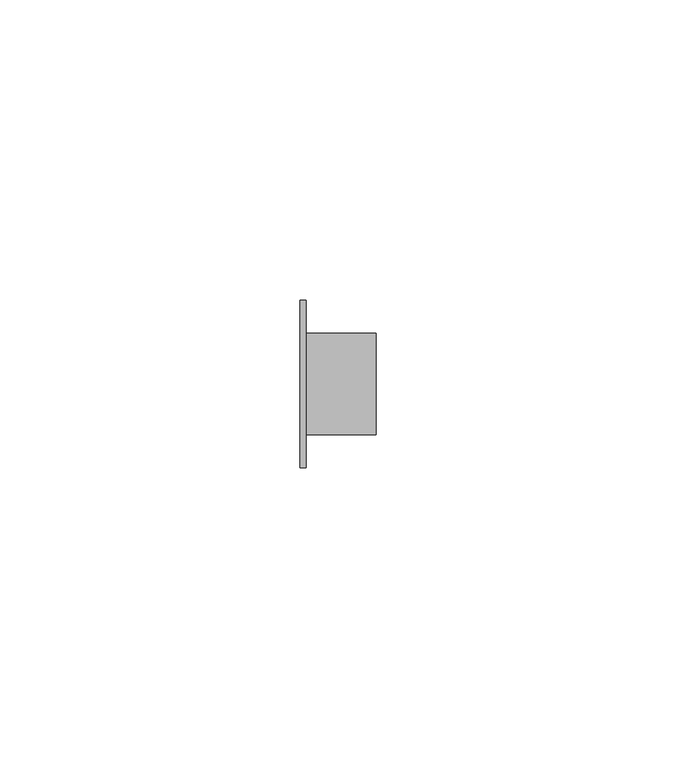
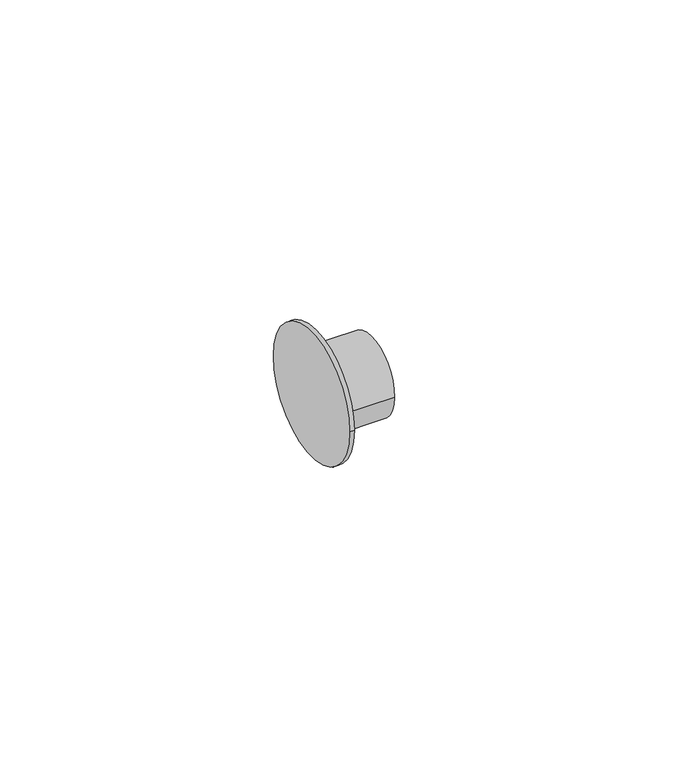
"""IFC4 building model written with IfcOpenShell, lengths in millimetres: pipe fitting geometry, Bucha de redução reta - Soldada - CU : Padrão."""

from ifc_helpers import new_model, si_unit, frame, origin, place, context, project, spatial, circle_curve, source, transform, mapped, element, save
from ifc_brep_helpers import plane_surface, cylinder_surface, advanced_brep


def pipe_fitting_182e23ec(model_context):
    return source(origin(), model_context, "Body", "AdvancedBrep", [
        advanced_brep(
        [(0.0, -13.97, 0.0), (0.0, 13.97, 0.0), (1.0, -13.97, 0.0), (1.0, 13.97, 0.0), (1.0, -8.4937, 0.0), (1.0, 8.4937, 0.0), (12.6589, -8.4937, 0.0), (12.6589, 8.4937, 0.0)],
        [
            (0, 1, circle_curve(frame((0.0, 0.0, 0.0), z_axis=(-1.0, 0.0, 0.0), x_axis=(0.0, 1.0, 0.0)), 13.97)),
            (1, 0, circle_curve(frame((0.0, 0.0, 0.0), z_axis=(-1.0, 0.0, 0.0), x_axis=(0.0, 1.0, 0.0)), 13.97)),
            (2, 3, circle_curve(frame((1.0, 0.0, 0.0), z_axis=(1.0, 0.0, 0.0), x_axis=(0.0, 1.0, 0.0)), 13.97)),
            (3, 2, circle_curve(frame((1.0, 0.0, 0.0), z_axis=(1.0, 0.0, 0.0), x_axis=(0.0, 1.0, 0.0)), 13.97)),
            (4, 5, circle_curve(frame((1.0, 0.0, 0.0), z_axis=(-1.0, 0.0, 0.0), x_axis=(0.0, 1.0, 0.0)), 8.4937)),
            (5, 4, circle_curve(frame((1.0, 0.0, 0.0), z_axis=(-1.0, 0.0, 0.0), x_axis=(0.0, 1.0, 0.0)), 8.4937)),
            (0, 2),
            (3, 1),
            (6, 7, circle_curve(frame((12.6589, 0.0, 0.0), z_axis=(1.0, 0.0, 0.0), x_axis=(0.0, 1.0, 0.0)), 8.4937)),
            (7, 6, circle_curve(frame((12.6589, 0.0, 0.0), z_axis=(1.0, 0.0, 0.0), x_axis=(0.0, 1.0, 0.0)), 8.4937)),
            (7, 5),
            (4, 6),
        ],
        [
            plane_surface(frame((0.0, 0.0, 0.0), z_axis=(-1.0, 0.0, 0.0), x_axis=(0.0, 0.0, 1.0))),
            plane_surface(frame((1.0, 0.0, 0.0), z_axis=(1.0, 0.0, 0.0), x_axis=(0.0, 0.0, 1.0))),
            cylinder_surface(frame((0.0, 0.0, 0.0), z_axis=(-1.0, 0.0, 0.0), x_axis=(0.0, 1.0, 0.0)), 13.97),
            plane_surface(frame((12.6589, 0.0, 0.0), z_axis=(1.0, 0.0, 0.0), x_axis=(0.0, 0.0, 1.0))),
            cylinder_surface(frame((1.0, 0.0, 0.0), z_axis=(-1.0, 0.0, 0.0), x_axis=(0.0, 1.0, 0.0)), 8.4937),
        ],
        [
            (0, [[1, 2]]),
            (1, [[3, 4], [5, 6]]),
            (2, [[-1, 7, -4, 8]]),
            (2, [[-2, -8, -3, -7]]),
            (3, [[9, 10]]),
            (4, [[-10, 11, -5, 12]]),
            (4, [[-9, -12, -6, -11]]),
        ],
    ),
    ])


if __name__ == "__main__":
    model = new_model("IFC4")
    model_context = context("Model", 3, world=origin())
    ifc_project = project(units=[si_unit("LENGTHUNIT", "METRE", prefix="MILLI")], contexts=[model_context])
    site = spatial("IfcSite", under=ifc_project)
    building = spatial("IfcBuilding", under=site)
    placement = place(None, origin())
    pipe_fitting_shape = pipe_fitting_182e23ec(model_context)
    element("IfcPipeFitting", 1, ObjectType="Bucha de redução reta - Soldada - CU : Padrão", at=placement, inside=building, context=model_context, shape_type="MappedRepresentation", body=[
        mapped(pipe_fitting_shape, transform((0.0, 0.0, 0.0), x_axis=(1.0, 0.0, 0.0), y_axis=(0.0, 1.0, 0.0), z_axis=(0.0, 0.0, 1.0))),
    ])
    save(model, "model.ifc")
